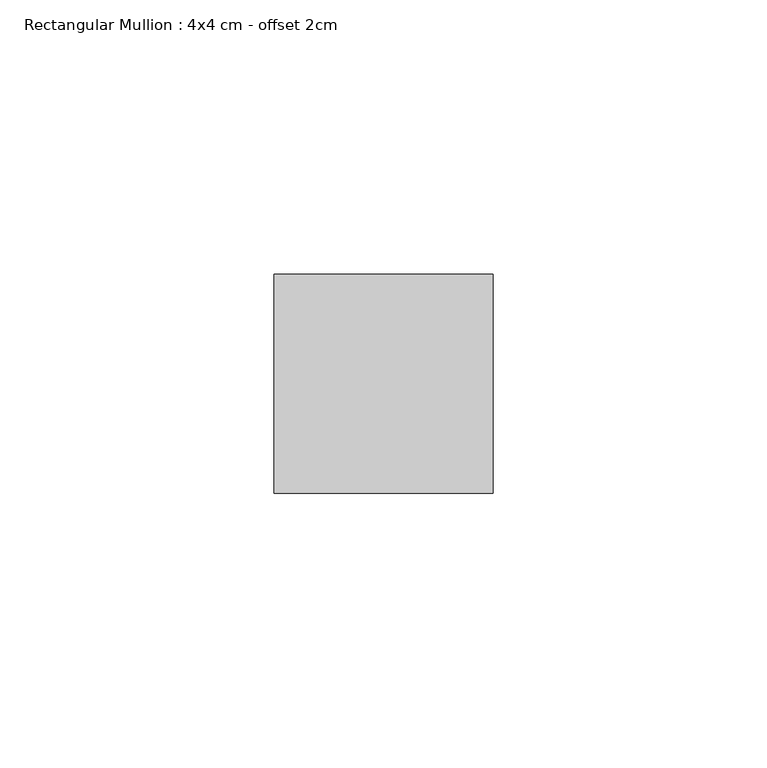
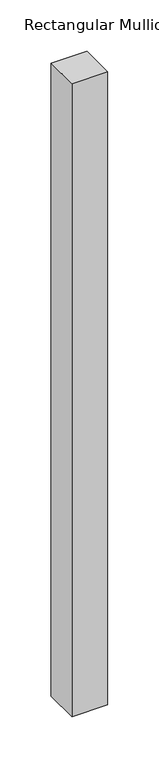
"""IFC4 building model written with IfcOpenShell, lengths in millimetres: member geometry, Rectangular Mullion : 4x4 cm - offset 2cm."""

from ifc_helpers import new_model, si_unit, frame, origin, place, context, project, spatial, polyline, outline, extrude, source, transform, mapped, element, save


def rectangular_mullion_4x4_cm_offset_2cm_845753c8(model_context):
    return source(origin(), model_context, "Body", "SweptSolid", [
        extrude(outline(polyline([(0.0, 0.0), (0.0, -40.0), (-40.0, -40.0), (-40.0, 0.0), (0.0, 0.0)])), frame((0.0, 0.0, -750.0), z_axis=(0.0, 0.0, 1.0), x_axis=(1.0, 0.0, 0.0)), (0.0, 0.0, 1.0), 750.0),
    ])


if __name__ == "__main__":
    model = new_model("IFC4")
    model_context = context("Model", 3, world=origin())
    ifc_project = project(units=[si_unit("LENGTHUNIT", "METRE", prefix="MILLI")], contexts=[model_context])
    site = spatial("IfcSite", under=ifc_project)
    building = spatial("IfcBuilding", under=site)
    placement = place(None, origin())
    rectangular_mullion_4x4_cm_offset_2cm_shape = rectangular_mullion_4x4_cm_offset_2cm_845753c8(model_context)
    element("IfcMember", 1, ObjectType="Rectangular Mullion : 4x4 cm - offset 2cm", at=placement, inside=building, context=model_context, shape_type="MappedRepresentation", body=[
        mapped(rectangular_mullion_4x4_cm_offset_2cm_shape, transform((0.0, 0.0, 0.0), x_axis=(1.0, 0.0, 0.0), y_axis=(0.0, 1.0, 0.0), z_axis=(0.0, 0.0, 1.0))),
    ])
    save(model, "model.ifc")
